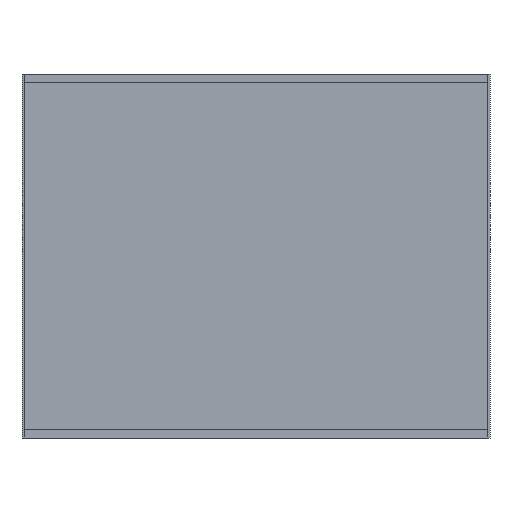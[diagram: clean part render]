
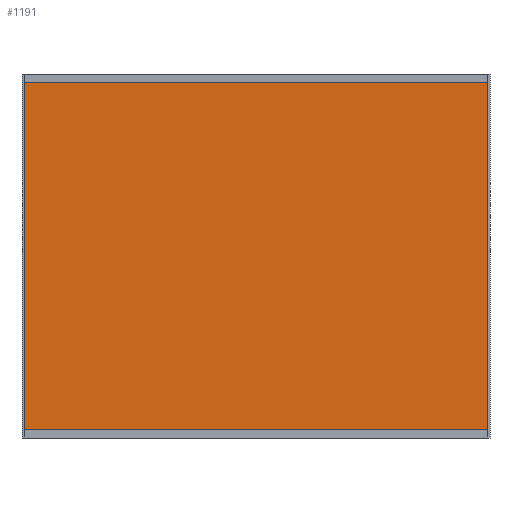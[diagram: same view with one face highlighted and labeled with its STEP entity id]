
A CAD part, front view. The second image highlights one B-rep face of the part: STEP entity #1191.
In plain terms, the highlighted planar face has unit normal (0, -1, 0).
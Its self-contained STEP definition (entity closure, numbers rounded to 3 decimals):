
#66=PLANE('',#1293);
#129=FACE_OUTER_BOUND('',#199,.T.);
#199=EDGE_LOOP('',(#1006,#1007,#1008,#1009));
#319=LINE('',#1857,#457);
#322=LINE('',#1863,#460);
#323=LINE('',#1865,#461);
#324=LINE('',#1866,#462);
#457=VECTOR('',#1539,10.);
#460=VECTOR('',#1544,10.);
#461=VECTOR('',#1545,10.);
#462=VECTOR('',#1546,10.);
#589=VERTEX_POINT('',#1854);
#590=VERTEX_POINT('',#1856);
#592=VERTEX_POINT('',#1862);
#593=VERTEX_POINT('',#1864);
#731=EDGE_CURVE('',#589,#590,#319,.T.);
#734=EDGE_CURVE('',#592,#589,#322,.T.);
#735=EDGE_CURVE('',#593,#592,#323,.T.);
#736=EDGE_CURVE('',#590,#593,#324,.T.);
#1006=ORIENTED_EDGE('',*,*,#734,.F.);
#1007=ORIENTED_EDGE('',*,*,#735,.F.);
#1008=ORIENTED_EDGE('',*,*,#736,.F.);
#1009=ORIENTED_EDGE('',*,*,#731,.F.);
#1191=ADVANCED_FACE('',(#129),#66,.T.);
#1293=AXIS2_PLACEMENT_3D('',#1861,#1542,#1543);
#1539=DIRECTION('',(0.,0.,1.));
#1542=DIRECTION('center_axis',(0.,-1.,0.));
#1543=DIRECTION('ref_axis',(0.,0.,-1.));
#1544=DIRECTION('',(-1.,0.,0.));
#1545=DIRECTION('',(0.,0.,-1.));
#1546=DIRECTION('',(1.,0.,0.));
#1854=CARTESIAN_POINT('',(-448.,-30.75,16.));
#1856=CARTESIAN_POINT('',(-448.,-30.75,683.));
#1857=CARTESIAN_POINT('',(-448.,-30.75,683.));
#1861=CARTESIAN_POINT('Origin',(0.,-30.75,683.));
#1862=CARTESIAN_POINT('',(448.,-30.75,16.));
#1863=CARTESIAN_POINT('',(0.,-30.75,16.));
#1864=CARTESIAN_POINT('',(448.,-30.75,683.));
#1865=CARTESIAN_POINT('',(448.,-30.75,683.));
#1866=CARTESIAN_POINT('',(0.,-30.75,683.));
